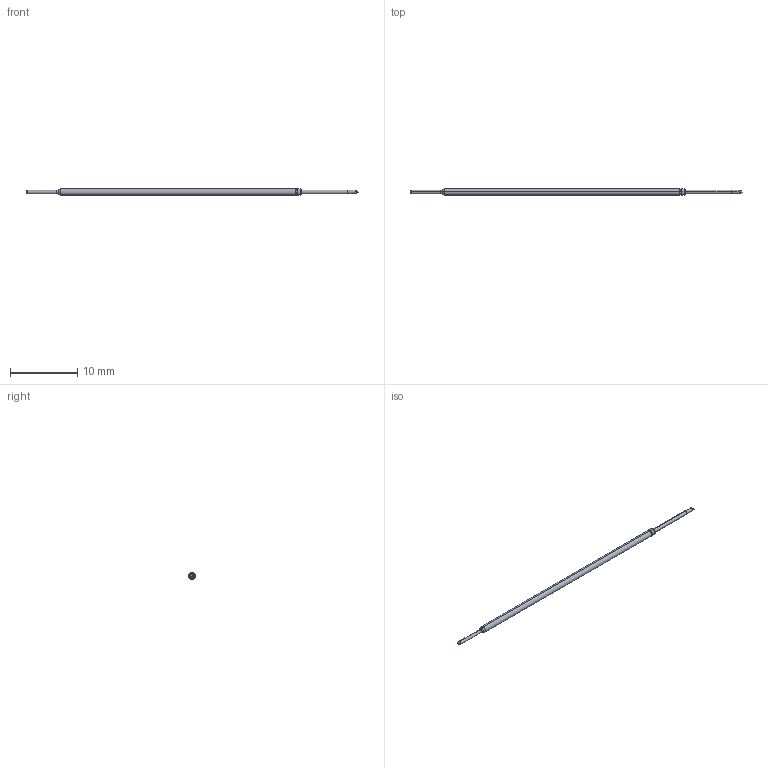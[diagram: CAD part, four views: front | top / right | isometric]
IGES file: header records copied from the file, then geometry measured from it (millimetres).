
Start section: SolidWorks IGES file using analytic representation for surfaces
Global section: file name: C:\Documents and Settings\mrumschlag\Desktop\changes\new\test\I15.IGS; native system: SolidWorks 2011; preprocessor: SolidWorks 2011; author: mrumschlag; date: 110630.142322; units: inch
Bounding box: 49.28 x 0.97 x 0.97 mm (x, y, z)
Surface area: 132.5 mm2 (no closed solid volume)
Topology: 0 solids, 0 shells, 35 faces, 200 edges, 198 vertices
Faces by surface type: revolution 22, bspline 13
